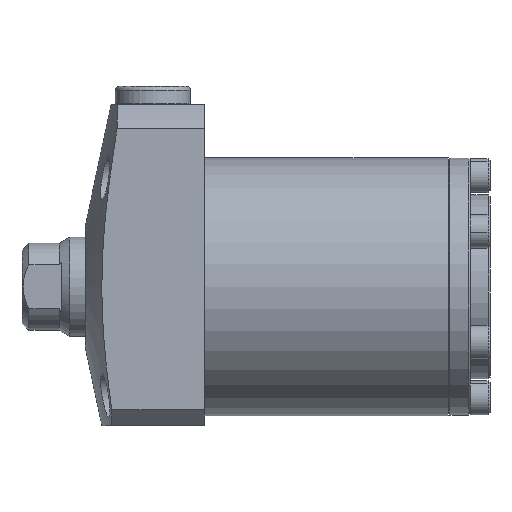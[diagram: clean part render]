
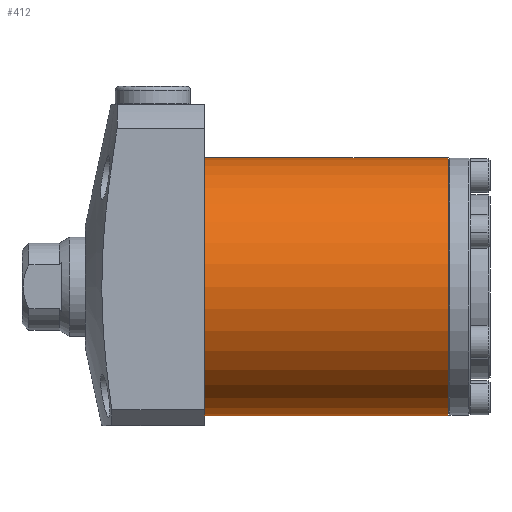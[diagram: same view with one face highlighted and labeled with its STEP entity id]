
A CAD part, left-side view. The second image highlights one B-rep face of the part: STEP entity #412.
In plain terms, the highlighted cylindrical face has radius 32.5 mm (diameter 65 mm), a partial arc.
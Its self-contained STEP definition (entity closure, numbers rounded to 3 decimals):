
#127 = EDGE_LOOP ( 'NONE', ( #498, #499, #500, #501 ) ) ;
#388 = EDGE_CURVE ( 'NONE', #725, #730, #2695, .T. ) ;
#412 = ADVANCED_FACE ( 'NONE', ( #2826 ), #2828, .T. ) ;
#466 = VECTOR ( 'NONE', #2699, 1000. ) ;
#498 = ORIENTED_EDGE ( 'NONE', *, *, #388, .F. ) ;
#499 = ORIENTED_EDGE ( 'NONE', *, *, #1225, .T. ) ;
#500 = ORIENTED_EDGE ( 'NONE', *, *, #1170, .T. ) ;
#501 = ORIENTED_EDGE ( 'NONE', *, *, #1222, .F. ) ;
#724 = VERTEX_POINT ( 'NONE', #2891 ) ;
#725 = VERTEX_POINT ( 'NONE', #2892 ) ;
#729 = VERTEX_POINT ( 'NONE', #2896 ) ;
#730 = VERTEX_POINT ( 'NONE', #2897 ) ;
#1170 = EDGE_CURVE ( 'NONE', #724, #729, #3125, .T. ) ;
#1222 = EDGE_CURVE ( 'NONE', #730, #729, #3638, .T. ) ;
#1225 = EDGE_CURVE ( 'NONE', #725, #724, #3643, .T. ) ;
#2691 = CARTESIAN_POINT ( 'NONE',  ( 0., -61.5, -32.5 ) ) ;
#2695 = LINE ( 'NONE', #2691, #466 ) ;
#2699 = DIRECTION ( 'NONE',  ( 0., 1., 0. ) ) ;
#2718 = VECTOR ( 'NONE', #3127, 1000. ) ;
#2821 = DIRECTION ( 'NONE',  ( 0., 1., 0. ) ) ;
#2826 = FACE_OUTER_BOUND ( 'NONE', #127, .T. ) ;
#2827 = CARTESIAN_POINT ( 'NONE',  ( 0., -61.5, 0. ) ) ;
#2828 = CYLINDRICAL_SURFACE ( 'NONE', #5738, 32.5 ) ;
#2829 = DIRECTION ( 'NONE',  ( 0., 0., 1. ) ) ;
#2891 = CARTESIAN_POINT ( 'NONE',  ( 0., -61.5, 32.5 ) ) ;
#2892 = CARTESIAN_POINT ( 'NONE',  ( 0., -61.5, -32.5 ) ) ;
#2896 = CARTESIAN_POINT ( 'NONE',  ( 0., 0., 32.5 ) ) ;
#2897 = CARTESIAN_POINT ( 'NONE',  ( 0., 0., -32.5 ) ) ;
#3125 = LINE ( 'NONE', #3126, #2718 ) ;
#3126 = CARTESIAN_POINT ( 'NONE',  ( 0., -61.5, 32.5 ) ) ;
#3127 = DIRECTION ( 'NONE',  ( 0., 1., 0. ) ) ;
#3491 = CARTESIAN_POINT ( 'NONE',  ( 0., 0., 0. ) ) ;
#3492 = DIRECTION ( 'NONE',  ( 0., 1., 0. ) ) ;
#3493 = DIRECTION ( 'NONE',  ( 0., 0., 1. ) ) ;
#3498 = CARTESIAN_POINT ( 'NONE',  ( 0., -61.5, 0. ) ) ;
#3499 = DIRECTION ( 'NONE',  ( 0., 1., 0. ) ) ;
#3500 = DIRECTION ( 'NONE',  ( 0., 0., 1. ) ) ;
#3638 = CIRCLE ( 'NONE', #3641, 32.5 ) ;
#3641 = AXIS2_PLACEMENT_3D ( 'NONE', #3491, #3492, #3493 ) ;
#3643 = CIRCLE ( 'NONE', #3645, 32.5 ) ;
#3645 = AXIS2_PLACEMENT_3D ( 'NONE', #3498, #3499, #3500 ) ;
#5738 = AXIS2_PLACEMENT_3D ( 'NONE', #2827, #2821, #2829 ) ;
